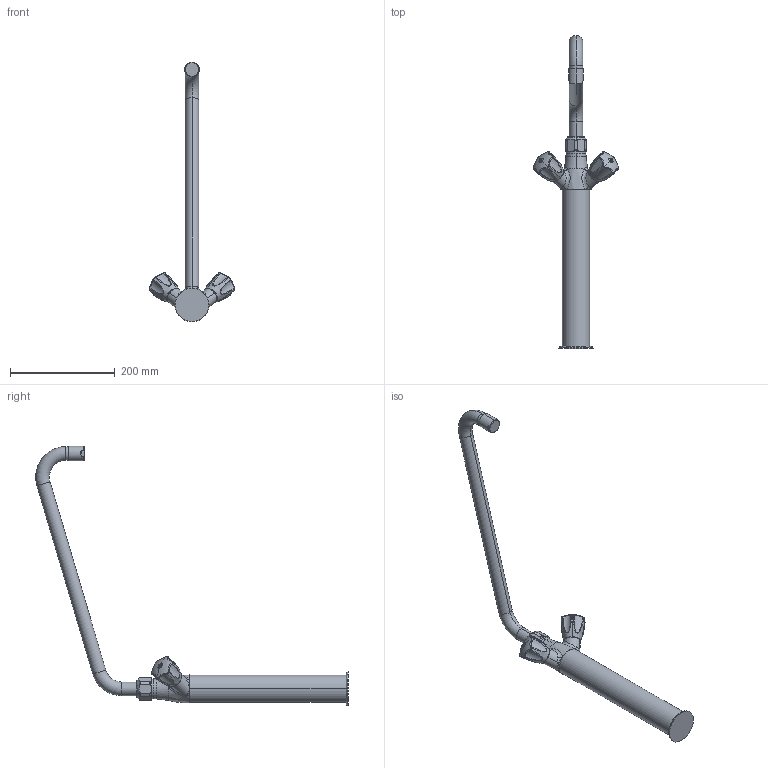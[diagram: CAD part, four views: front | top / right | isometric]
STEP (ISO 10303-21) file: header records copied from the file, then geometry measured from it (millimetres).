
FILE_DESCRIPTION((''),'2;1');
FILE_NAME('K_24_41_21_000C07','2012-01-06T',('HEF'),(''),'PRO/ENGINEER BY PARAMETRIC TECHNOLOGY CORPORATION, 2011080','PRO/ENGINEER BY PARAMETRIC TECHNOLOGY CORPORATION, 2011080','');
FILE_SCHEMA(('AUTOMOTIVE_DESIGN_CC2 { 1 2 10303 214 -1 1 5 2 }'));
Length unit declared in the file: millimetre
Products named in the file (1): K_24_41_21_000C07
Bounding box: 163.6 x 597.58 x 496.54 mm (x, y, z)
Volume: 1277498.1 mm3; surface area: 135540 mm2
Topology: 1 solids, 1 shells, 255 faces, 604 edges, 366 vertices
Faces by surface type: plane 87, torus 46, cylinder 42, bspline 42, sphere 28, cone 6, extrusion 4
Entity records: 16656 total; most frequent: CARTESIAN_POINT 9044, ORIENTED_EDGE 1208, DIRECTION 1162, EDGE_CURVE 604, AXIS2_PLACEMENT_3D 467, VERTEX_POINT 366, FILL_AREA_STYLE_COLOUR 275, FILL_AREA_STYLE 275
